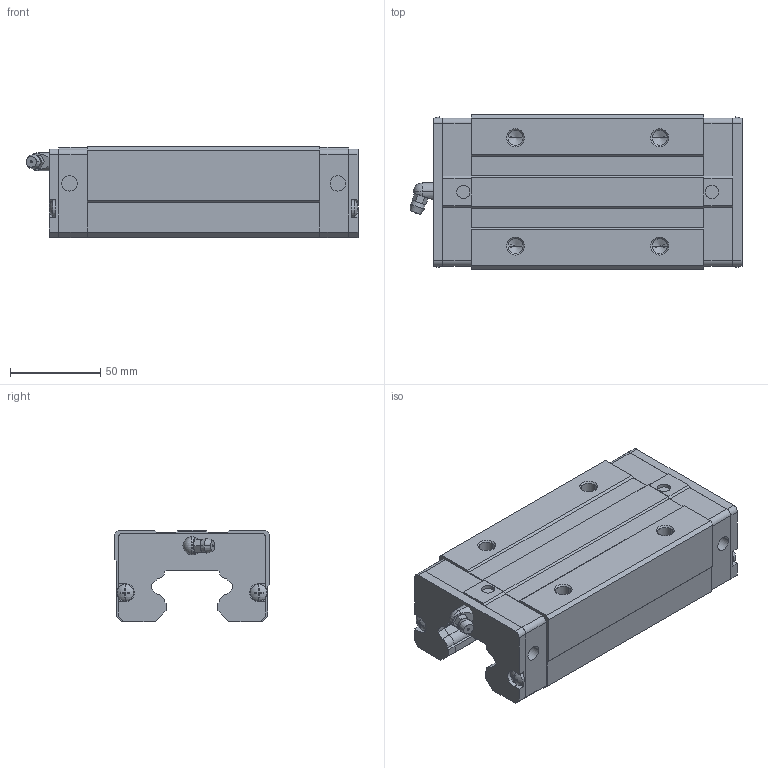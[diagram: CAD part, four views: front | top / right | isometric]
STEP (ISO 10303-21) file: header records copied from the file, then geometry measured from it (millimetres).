
FILE_DESCRIPTION(('starvars output'),'2;1');
FILE_NAME('cv20190625225925000065276.stp','22:59:25 2019/06/25',( 'Thomas Industrial Network Germany GmbH'),( 'Thomas Industrial Network Germany GmbH'),'unknown preprocess','ACIS' ,'unknown authorization');
FILE_SCHEMA(('CONFIG_CONTROL_DESIGN {UNKNOWN IMPLEMENTATION LEVEL}'));
Length unit declared in the file: millimetre
Products named in the file (10): PRODUCT_ID_1; PRODUCT_ID_2; PRODUCT_ID_3; PRODUCT_ID_4; PRODUCT_ID_5; PRODUCT_ID_6; PRODUCT_ID_7; PRODUCT_ID_8; PRODUCT_ID_9; PRODUCT_ID_10
Bounding box: 184.1 x 86 x 50.5 mm (x, y, z)
Volume: 540008.8 mm3; surface area: 93152.1 mm2
Topology: 10 solids, 10 shells, 392 faces, 1001 edges, 635 vertices
Faces by surface type: plane 244, cone 70, cylinder 66, sphere 12
Entity records: 11374 total; most frequent: ORIENTED_EDGE 1978, CARTESIAN_POINT 1875, DIRECTION 1563, EDGE_CURVE 989, VERTEX_POINT 635, VECTOR 629, LINE 629, AXIS2_PLACEMENT_3D 467
